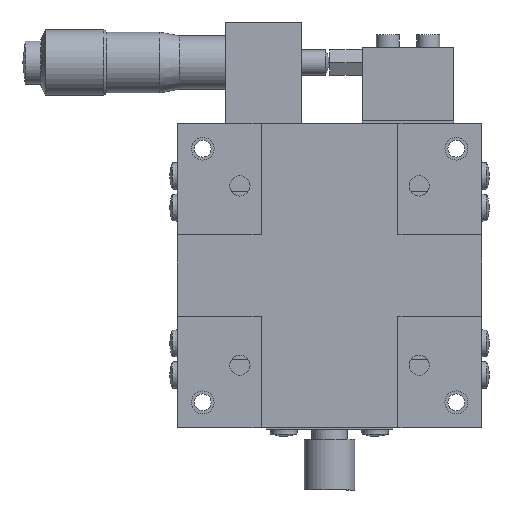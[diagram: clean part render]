
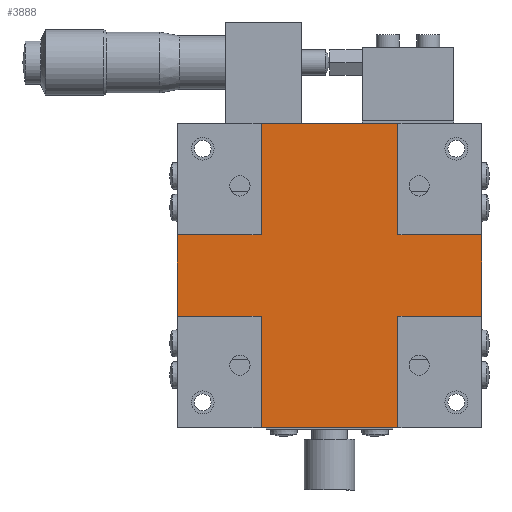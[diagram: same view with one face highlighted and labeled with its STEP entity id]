
A CAD part, front view. The second image highlights one B-rep face of the part: STEP entity #3888.
In plain terms, the highlighted planar face has unit normal (0, -1, 0).
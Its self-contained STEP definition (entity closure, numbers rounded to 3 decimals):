
#2104 = LINE ( 'NONE', #2202, #2201 ) ;
#2117 = CARTESIAN_POINT ( 'NONE',  ( -30., 0.5, 8. ) ) ;
#2118 = DIRECTION ( 'NONE',  ( 0., 0., -1. ) ) ;
#2119 = VECTOR ( 'NONE', #2118, 1000. ) ;
#2120 = CARTESIAN_POINT ( 'NONE',  ( -30., 0.5, -3.2 ) ) ;
#2121 = LINE ( 'NONE', #2120, #2119 ) ;
#2127 = DIRECTION ( 'NONE',  ( -1., 0., 0. ) ) ;
#2128 = VECTOR ( 'NONE', #2127, 1000. ) ;
#2129 = CARTESIAN_POINT ( 'NONE',  ( -30., 0.5, -8. ) ) ;
#2130 = LINE ( 'NONE', #2129, #2128 ) ;
#2199 = CARTESIAN_POINT ( 'NONE',  ( -13.5, 0.5, 8. ) ) ;
#2200 = DIRECTION ( 'NONE',  ( 1., 0., 0. ) ) ;
#2201 = VECTOR ( 'NONE', #2200, 1000. ) ;
#2202 = CARTESIAN_POINT ( 'NONE',  ( -30., 0.5, 8. ) ) ;
#2266 = CARTESIAN_POINT ( 'NONE',  ( 13.5, 0.5, -8. ) ) ;
#2285 = DIRECTION ( 'NONE',  ( -1., 0., 0. ) ) ;
#2286 = VECTOR ( 'NONE', #2285, 1000. ) ;
#2287 = CARTESIAN_POINT ( 'NONE',  ( 30., 0.5, -8. ) ) ;
#2288 = LINE ( 'NONE', #2287, #2286 ) ;
#2366 = LINE ( 'NONE', #2485, #2484 ) ;
#2421 = CARTESIAN_POINT ( 'NONE',  ( -30., 0.5, -8. ) ) ;
#2458 = CARTESIAN_POINT ( 'NONE',  ( 13.5, 0.5, 8. ) ) ;
#2465 = CARTESIAN_POINT ( 'NONE',  ( 30., 0.5, -8. ) ) ;
#2466 = DIRECTION ( 'NONE',  ( 0., 0., -1. ) ) ;
#2467 = VECTOR ( 'NONE', #2466, 1000. ) ;
#2468 = CARTESIAN_POINT ( 'NONE',  ( 30., 0.5, -3.2 ) ) ;
#2469 = LINE ( 'NONE', #2468, #2467 ) ;
#2470 = CARTESIAN_POINT ( 'NONE',  ( 30., 0.5, 8. ) ) ;
#2482 = CARTESIAN_POINT ( 'NONE',  ( 13.5, 0.5, -30. ) ) ;
#2483 = DIRECTION ( 'NONE',  ( 0., 0., -1. ) ) ;
#2484 = VECTOR ( 'NONE', #2483, 1000. ) ;
#2485 = CARTESIAN_POINT ( 'NONE',  ( 13.5, 0.5, -30. ) ) ;
#2551 = DIRECTION ( 'NONE',  ( 1., 0., 0. ) ) ;
#2552 = VECTOR ( 'NONE', #2551, 1000. ) ;
#2553 = CARTESIAN_POINT ( 'NONE',  ( 30., 0.5, 8. ) ) ;
#2554 = LINE ( 'NONE', #2553, #2552 ) ;
#2566 = CARTESIAN_POINT ( 'NONE',  ( -13.5, 0.5, -8. ) ) ;
#2567 = DIRECTION ( 'NONE',  ( 0., 0., 1. ) ) ;
#2568 = VECTOR ( 'NONE', #2567, 1000. ) ;
#2569 = CARTESIAN_POINT ( 'NONE',  ( -13.5, 0.5, -30. ) ) ;
#2570 = LINE ( 'NONE', #2569, #2568 ) ;
#2571 = CARTESIAN_POINT ( 'NONE',  ( -13.5, 0.5, -30. ) ) ;
#2654 = DIRECTION ( 'NONE',  ( 1., 0., 0. ) ) ;
#2655 = VECTOR ( 'NONE', #2654, 1000. ) ;
#2656 = CARTESIAN_POINT ( 'NONE',  ( -30., 0.5, -30. ) ) ;
#2657 = LINE ( 'NONE', #2656, #2655 ) ;
#3792 = ORIENTED_EDGE ( 'NONE', *, *, #5767, .F. ) ;
#3793 = VERTEX_POINT ( 'NONE', #5965 ) ;
#3794 = ORIENTED_EDGE ( 'NONE', *, *, #3795, .F. ) ;
#3795 = EDGE_CURVE ( 'NONE', #5768, #3793, #5964, .T. ) ;
#3796 = ORIENTED_EDGE ( 'NONE', *, *, #3797, .T. ) ;
#3797 = EDGE_CURVE ( 'NONE', #3963, #3793, #5960, .T. ) ;
#3798 = ORIENTED_EDGE ( 'NONE', *, *, #5951, .F. ) ;
#3799 = ORIENTED_EDGE ( 'NONE', *, *, #3965, .F. ) ;
#3800 = ORIENTED_EDGE ( 'NONE', *, *, #5858, .F. ) ;
#3802 = ORIENTED_EDGE ( 'NONE', *, *, #5944, .F. ) ;
#3803 = ORIENTED_EDGE ( 'NONE', *, *, #5797, .F. ) ;
#3888 = ADVANCED_FACE ( 'NONE', ( #6237 ), #6236, .T. ) ;
#3889 = EDGE_LOOP ( 'NONE', ( #3890, #3802, #3803, #3800, #3798, #3799, #3796, #3794, #3792, #3904, #3905, #3906 ) ) ;
#3890 = ORIENTED_EDGE ( 'NONE', *, *, #6885, .T. ) ;
#3904 = ORIENTED_EDGE ( 'NONE', *, *, #5754, .T. ) ;
#3905 = ORIENTED_EDGE ( 'NONE', *, *, #5716, .F. ) ;
#3906 = ORIENTED_EDGE ( 'NONE', *, *, #5895, .F. ) ;
#3963 = VERTEX_POINT ( 'NONE', #6144 ) ;
#3965 = EDGE_CURVE ( 'NONE', #3963, #5904, #6143, .T. ) ;
#5716 = EDGE_CURVE ( 'NONE', #5896, #5988, #2130, .T. ) ;
#5754 = EDGE_CURVE ( 'NONE', #5755, #5988, #2121, .T. ) ;
#5755 = VERTEX_POINT ( 'NONE', #2117 ) ;
#5767 = EDGE_CURVE ( 'NONE', #5755, #5768, #2104, .T. ) ;
#5768 = VERTEX_POINT ( 'NONE', #2199 ) ;
#5797 = EDGE_CURVE ( 'NONE', #5859, #5798, #2288, .T. ) ;
#5798 = VERTEX_POINT ( 'NONE', #2266 ) ;
#5856 = VERTEX_POINT ( 'NONE', #2470 ) ;
#5858 = EDGE_CURVE ( 'NONE', #5856, #5859, #2469, .T. ) ;
#5859 = VERTEX_POINT ( 'NONE', #2465 ) ;
#5893 = VERTEX_POINT ( 'NONE', #2571 ) ;
#5895 = EDGE_CURVE ( 'NONE', #5893, #5896, #2570, .T. ) ;
#5896 = VERTEX_POINT ( 'NONE', #2566 ) ;
#5904 = VERTEX_POINT ( 'NONE', #2458 ) ;
#5944 = EDGE_CURVE ( 'NONE', #5798, #5945, #2366, .T. ) ;
#5945 = VERTEX_POINT ( 'NONE', #2482 ) ;
#5951 = EDGE_CURVE ( 'NONE', #5904, #5856, #2554, .T. ) ;
#5957 = DIRECTION ( 'NONE',  ( -1., 0., 0. ) ) ;
#5958 = VECTOR ( 'NONE', #5957, 1000. ) ;
#5959 = CARTESIAN_POINT ( 'NONE',  ( -30., 0.5, 30. ) ) ;
#5960 = LINE ( 'NONE', #5959, #5958 ) ;
#5961 = DIRECTION ( 'NONE',  ( 0., 0., 1. ) ) ;
#5962 = VECTOR ( 'NONE', #5961, 1000. ) ;
#5963 = CARTESIAN_POINT ( 'NONE',  ( -13.5, 0.5, 30. ) ) ;
#5964 = LINE ( 'NONE', #5963, #5962 ) ;
#5965 = CARTESIAN_POINT ( 'NONE',  ( -13.5, 0.5, 30. ) ) ;
#5988 = VERTEX_POINT ( 'NONE', #2421 ) ;
#6140 = DIRECTION ( 'NONE',  ( 0., 0., -1. ) ) ;
#6141 = VECTOR ( 'NONE', #6140, 1000. ) ;
#6142 = CARTESIAN_POINT ( 'NONE',  ( 13.5, 0.5, 30. ) ) ;
#6143 = LINE ( 'NONE', #6142, #6141 ) ;
#6144 = CARTESIAN_POINT ( 'NONE',  ( 13.5, 0.5, 30. ) ) ;
#6232 = DIRECTION ( 'NONE',  ( 0., 0., 1. ) ) ;
#6233 = DIRECTION ( 'NONE',  ( 0., -1., 0. ) ) ;
#6234 = CARTESIAN_POINT ( 'NONE',  ( 0., 0.5, 0. ) ) ;
#6235 = AXIS2_PLACEMENT_3D ( 'NONE', #6234, #6233, #6232 ) ;
#6236 = PLANE ( 'NONE',  #6235 ) ;
#6237 = FACE_OUTER_BOUND ( 'NONE', #3889, .T. ) ;
#6885 = EDGE_CURVE ( 'NONE', #5893, #5945, #2657, .T. ) ;
